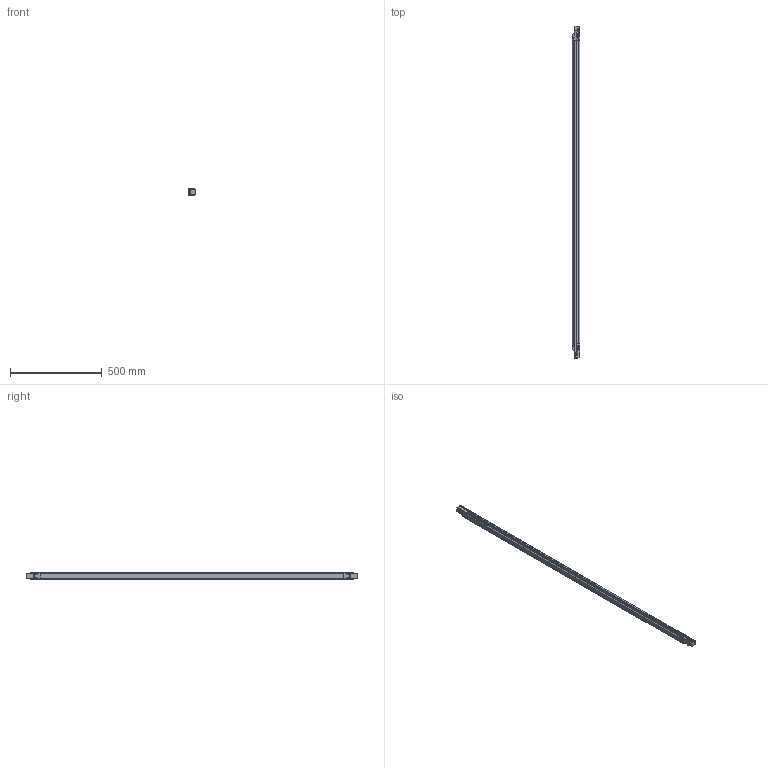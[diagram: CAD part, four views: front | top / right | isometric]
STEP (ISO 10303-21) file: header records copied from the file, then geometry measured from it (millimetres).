
FILE_DESCRIPTION(/* description */ (''),/* implementation_level */ '2;1');
FILE_NAME(/* name */ 'DSD-0477.stp',/* time_stamp */ '2020-07-17T14:18:51+02:00',/* author */ (''),/* organization */ (''),/* preprocessor_version */ 'ST-DEVELOPER v16.7',/* originating_system */ 'SIEMENS PLM Software NX 12.0',/* authorisation */ '');
FILE_SCHEMA (('AUTOMOTIVE_DESIGN { 1 0 10303 214 3 1 1 1 }'));
Products named in the file (1): FGut24088636lu65
Bounding box: 40.75 x 1806.2 x 35 mm (x, y, z)
Surface area: 315500.6 mm2 (no closed solid volume)
Topology: 0 solids, 1053 shells, 1053 faces, 6166 edges, 6126 vertices
Faces by surface type: plane 576, cylinder 258, bspline 89, cone 87, torus 35, sphere 8
Full cylindrical faces by diameter (mm): 1.6 x4, 1.65 x2, 1.7 x2, 4.5 x6
Entity records: 73490 total; most frequent: CARTESIAN_POINT 24827, DIRECTION 6106, VERTEX_POINT 6079, ORIENTED_EDGE 6073, EDGE_CURVE 6073, LINE 2834, VECTOR 2834, B_SPLINE_CURVE_WITH_KNOTS 2321
